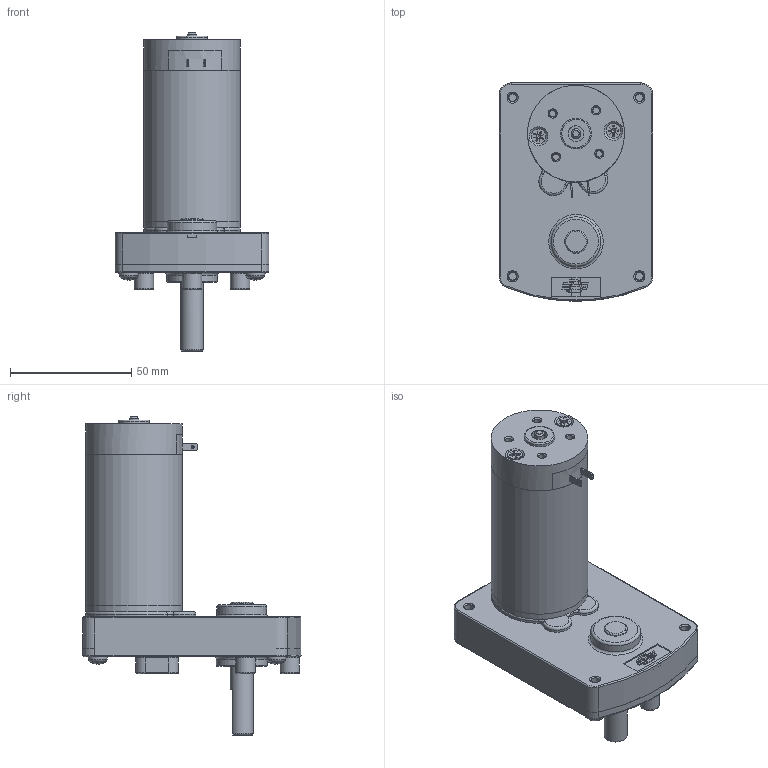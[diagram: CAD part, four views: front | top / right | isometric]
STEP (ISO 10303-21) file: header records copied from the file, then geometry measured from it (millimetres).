
FILE_DESCRIPTION(/* description */ (''),/* implementation_level */ '2;1');
FILE_NAME(/* name */ 'C:\Users\byjeong\Desktop\3D도면\SR46BT.stp',/* time_stamp */ '2015-03-31T15:09:14+09:00',/* author */ ('byjeong'),/* organization */ (''),/* preprocessor_version */ 'ST-DEVELOPER v15.6',/* originating_system */ 'Autodesk Inventor 2015',/* authorisation */ '');
FILE_SCHEMA (('AUTOMOTIVE_DESIGN { 1 0 10303 214 3 1 1 }'));
Length unit declared in the file: millimetre
Products named in the file (10): SR BOX ASSY; RM4TYPE_BRUSH_BRAKET_TERMINAL; RM4TYPE_REAR_HOUSING; REAR_HOUSING__ASS'Y_TERMINAL; RM4TYPE_FRONT_HOUSING_; RM4TYPE_PIPE_HOUSING_pi40XL62.4; RM46TYPE_SHAFT; AS 1427 Z - 미터 M3.5 x 5; RM46ㅁBT; 조립품2
Bounding box: 63.5 x 90.13 x 131.37 mm (x, y, z)
Volume: 73181.4 mm3; surface area: 61811.2 mm2
Topology: 9 solids, 18 shells, 637 faces, 1560 edges, 995 vertices
Faces by surface type: plane 277, cylinder 159, cone 128, torus 68, sphere 4, bspline 1
Full cylindrical faces by diameter (mm): 1.2 x2, 2.5 x1, 2.7 x4, 2.8 x4, 3 x3, 3.132 x2, 3.4 x7, 3.5 x2, 3.571 x4, 3.6 x6, 3.7 x2, 3.969 x1, 4 x8, 4.4 x6, 4.45 x1, 5 x1, 6.1 x2, 6.5 x1, 6.65 x1, 8 x3, 9.525 x2, 9.528 x1, 9.565 x2, 12.7 x3, 14.3 x3, 16.6 x1, 17.6 x1, 20.5 x1, 21 x1, 23 x1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
Entity records: 17607 total; most frequent: CARTESIAN_POINT 4103, DIRECTION 2875, ORIENTED_EDGE 2510, EDGE_CURVE 1251, AXIS2_PLACEMENT_3D 1185, VERTEX_POINT 887, EDGE_LOOP 842, FACE_OUTER_BOUND 596
